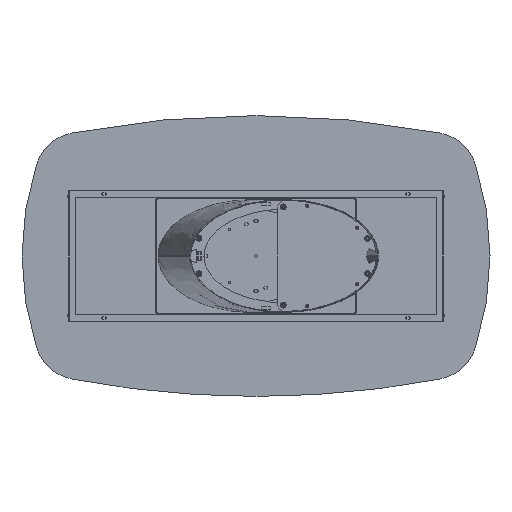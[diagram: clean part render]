
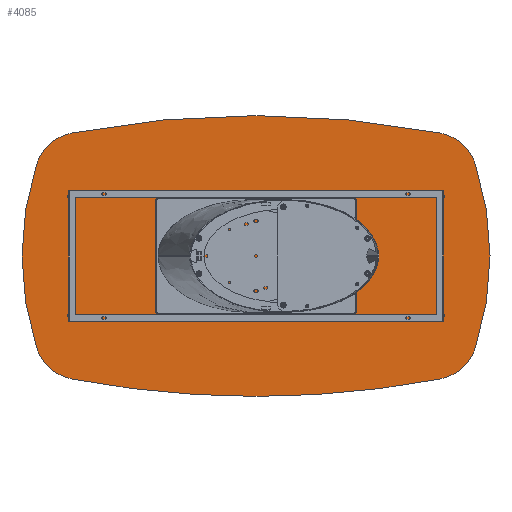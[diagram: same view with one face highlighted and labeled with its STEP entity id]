
A CAD part, front view. The second image highlights one B-rep face of the part: STEP entity #4085.
In plain terms, the highlighted planar face has unit normal (0, -1, 0).
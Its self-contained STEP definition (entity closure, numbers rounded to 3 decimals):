
#103 = CARTESIAN_POINT ( 'NONE',  ( -937.639, 0., 391.646 ) ) ;
#176 = DIRECTION ( 'NONE',  ( 0., 0., 1. ) ) ;
#512 = CARTESIAN_POINT ( 'NONE',  ( 784.906, 0., -526.006 ) ) ;
#751 = AXIS2_PLACEMENT_3D ( 'NONE', #4195, #8334, #8904 ) ;
#937 = CARTESIAN_POINT ( 'NONE',  ( 261., 0., 0. ) ) ;
#1034 = DIRECTION ( 'NONE',  ( 0., 0., 1. ) ) ;
#1778 = EDGE_LOOP ( 'NONE', ( #4419, #19134, #27264, #19695, #9771, #16593, #22487, #17159, #11402 ) ) ;
#2307 = AXIS2_PLACEMENT_3D ( 'NONE', #937, #25147, #5247 ) ;
#3006 = EDGE_CURVE ( 'NONE', #6698, #23482, #22249, .T. ) ;
#3571 = CARTESIAN_POINT ( 'NONE',  ( 937.639, 0., 391.646 ) ) ;
#4085 = ADVANCED_FACE ( 'NONE', ( #17111 ), #17397, .F. ) ;
#4195 = CARTESIAN_POINT ( 'NONE',  ( 0., 0., 3600. ) ) ;
#4419 = ORIENTED_EDGE ( 'NONE', *, *, #7460, .F. ) ;
#4518 = DIRECTION ( 'NONE',  ( 0., 0., 1. ) ) ;
#4590 = DIRECTION ( 'NONE',  ( 0., 1., 0. ) ) ;
#4823 = DIRECTION ( 'NONE',  ( 0., -1., 0. ) ) ;
#5247 = DIRECTION ( 'NONE',  ( 0., 0., 1. ) ) ;
#5409 = CIRCLE ( 'NONE', #19116, 4200. ) ;
#6468 = DIRECTION ( 'NONE',  ( 0., 0., 1. ) ) ;
#6698 = VERTEX_POINT ( 'NONE', #512 ) ;
#6921 = AXIS2_PLACEMENT_3D ( 'NONE', #11069, #19792, #176 ) ;
#7460 = EDGE_CURVE ( 'NONE', #21328, #25074, #5409, .T. ) ;
#7742 = EDGE_CURVE ( 'NONE', #10973, #16710, #17327, .T. ) ;
#8182 = CIRCLE ( 'NONE', #13673, 200. ) ;
#8334 = DIRECTION ( 'NONE',  ( 0., 1., 0. ) ) ;
#8597 = CARTESIAN_POINT ( 'NONE',  ( 0., 0., 3600. ) ) ;
#8904 = DIRECTION ( 'NONE',  ( 0., 0., 1. ) ) ;
#9018 = CARTESIAN_POINT ( 'NONE',  ( -784.906, 0., 526.006 ) ) ;
#9151 = AXIS2_PLACEMENT_3D ( 'NONE', #19571, #4823, #17426 ) ;
#9184 = DIRECTION ( 'NONE',  ( 0., 0., 1. ) ) ;
#9452 = EDGE_CURVE ( 'NONE', #13122, #25074, #21510, .T. ) ;
#9600 = EDGE_CURVE ( 'NONE', #10973, #25673, #13731, .T. ) ;
#9771 = ORIENTED_EDGE ( 'NONE', *, *, #11705, .F. ) ;
#9983 = CARTESIAN_POINT ( 'NONE',  ( -784.906, 0., -526.006 ) ) ;
#10033 = CARTESIAN_POINT ( 'NONE',  ( 747.529, 0., -329.529 ) ) ;
#10176 = DIRECTION ( 'NONE',  ( 0., -1., 0. ) ) ;
#10506 = EDGE_CURVE ( 'NONE', #13122, #13477, #24757, .T. ) ;
#10973 = VERTEX_POINT ( 'NONE', #21778 ) ;
#11069 = CARTESIAN_POINT ( 'NONE',  ( -261., 0., 0. ) ) ;
#11402 = ORIENTED_EDGE ( 'NONE', *, *, #9452, .T. ) ;
#11492 = CIRCLE ( 'NONE', #21094, 4200. ) ;
#11621 = DIRECTION ( 'NONE',  ( 0., -1., 0. ) ) ;
#11705 = EDGE_CURVE ( 'NONE', #23482, #16710, #11492, .T. ) ;
#13122 = VERTEX_POINT ( 'NONE', #3571 ) ;
#13322 = DIRECTION ( 'NONE',  ( 0., 0., 1. ) ) ;
#13477 = VERTEX_POINT ( 'NONE', #26494 ) ;
#13482 = CARTESIAN_POINT ( 'NONE',  ( -747.529, 0., -329.529 ) ) ;
#13673 = AXIS2_PLACEMENT_3D ( 'NONE', #10033, #10176, #18898 ) ;
#13731 = CIRCLE ( 'NONE', #2307, 1261. ) ;
#16593 = ORIENTED_EDGE ( 'NONE', *, *, #3006, .F. ) ;
#16710 = VERTEX_POINT ( 'NONE', #9983 ) ;
#17111 = FACE_OUTER_BOUND ( 'NONE', #1778, .T. ) ;
#17159 = ORIENTED_EDGE ( 'NONE', *, *, #10506, .F. ) ;
#17314 = EDGE_CURVE ( 'NONE', #21328, #25673, #23530, .T. ) ;
#17327 = CIRCLE ( 'NONE', #22371, 200. ) ;
#17397 = PLANE ( 'NONE',  #19082 ) ;
#17426 = DIRECTION ( 'NONE',  ( 0., 0., 1. ) ) ;
#18503 = CARTESIAN_POINT ( 'NONE',  ( 0., 0., -3600. ) ) ;
#18898 = DIRECTION ( 'NONE',  ( 0., 0., 1. ) ) ;
#19082 = AXIS2_PLACEMENT_3D ( 'NONE', #19683, #26446, #4518 ) ;
#19116 = AXIS2_PLACEMENT_3D ( 'NONE', #18503, #20666, #1034 ) ;
#19134 = ORIENTED_EDGE ( 'NONE', *, *, #17314, .T. ) ;
#19571 = CARTESIAN_POINT ( 'NONE',  ( 747.529, 0., 329.529 ) ) ;
#19683 = CARTESIAN_POINT ( 'NONE',  ( -130.5, 0., 1800. ) ) ;
#19695 = ORIENTED_EDGE ( 'NONE', *, *, #7742, .T. ) ;
#19792 = DIRECTION ( 'NONE',  ( 0., 1., 0. ) ) ;
#20666 = DIRECTION ( 'NONE',  ( 0., 1., 0. ) ) ;
#21094 = AXIS2_PLACEMENT_3D ( 'NONE', #8597, #4590, #13322 ) ;
#21328 = VERTEX_POINT ( 'NONE', #9018 ) ;
#21510 = CIRCLE ( 'NONE', #9151, 200. ) ;
#21778 = CARTESIAN_POINT ( 'NONE',  ( -937.639, 0., -391.646 ) ) ;
#22249 = CIRCLE ( 'NONE', #751, 4200. ) ;
#22371 = AXIS2_PLACEMENT_3D ( 'NONE', #13482, #11621, #9184 ) ;
#22487 = ORIENTED_EDGE ( 'NONE', *, *, #24920, .T. ) ;
#23482 = VERTEX_POINT ( 'NONE', #24465 ) ;
#23530 = CIRCLE ( 'NONE', #27644, 200. ) ;
#24465 = CARTESIAN_POINT ( 'NONE',  ( 0., 0., -600. ) ) ;
#24757 = CIRCLE ( 'NONE', #6921, 1261. ) ;
#24920 = EDGE_CURVE ( 'NONE', #6698, #13477, #8182, .T. ) ;
#25074 = VERTEX_POINT ( 'NONE', #25788 ) ;
#25147 = DIRECTION ( 'NONE',  ( 0., 1., 0. ) ) ;
#25673 = VERTEX_POINT ( 'NONE', #103 ) ;
#25788 = CARTESIAN_POINT ( 'NONE',  ( 784.906, 0., 526.006 ) ) ;
#26111 = CARTESIAN_POINT ( 'NONE',  ( -747.529, 0., 329.529 ) ) ;
#26446 = DIRECTION ( 'NONE',  ( 0., 1., 0. ) ) ;
#26494 = CARTESIAN_POINT ( 'NONE',  ( 937.639, 0., -391.646 ) ) ;
#27264 = ORIENTED_EDGE ( 'NONE', *, *, #9600, .F. ) ;
#27644 = AXIS2_PLACEMENT_3D ( 'NONE', #26111, #28118, #6468 ) ;
#28118 = DIRECTION ( 'NONE',  ( 0., -1., 0. ) ) ;
